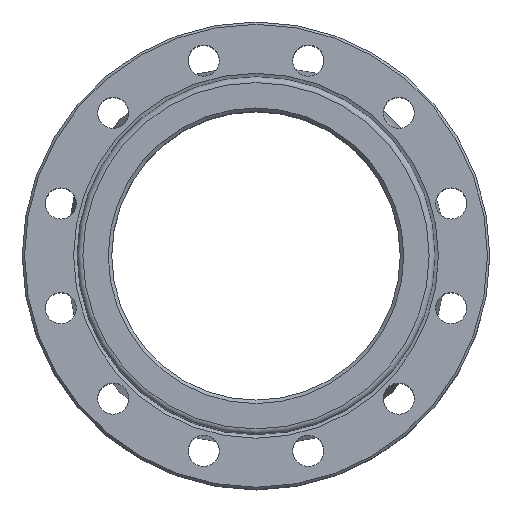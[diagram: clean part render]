
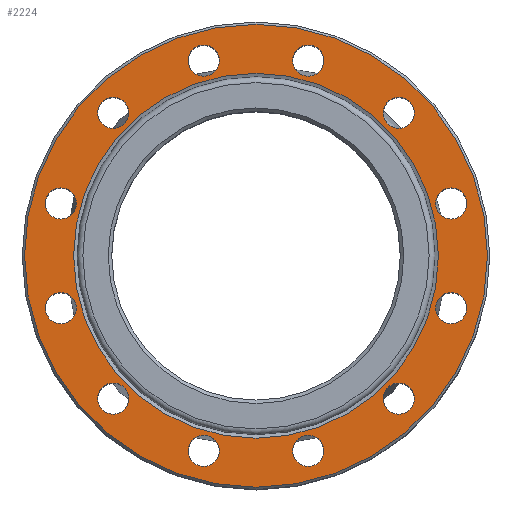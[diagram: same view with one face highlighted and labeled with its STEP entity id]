
A CAD part, top view. The second image highlights one B-rep face of the part: STEP entity #2224.
In plain terms, the highlighted planar face has unit normal (0, 0, 1).
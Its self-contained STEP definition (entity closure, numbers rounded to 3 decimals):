
#180=FACE_BOUND('',#553,.T.);
#181=FACE_BOUND('',#554,.T.);
#182=FACE_BOUND('',#555,.T.);
#183=FACE_BOUND('',#556,.T.);
#184=FACE_BOUND('',#557,.T.);
#185=FACE_BOUND('',#558,.T.);
#186=FACE_BOUND('',#559,.T.);
#187=FACE_BOUND('',#560,.T.);
#188=FACE_BOUND('',#561,.T.);
#189=FACE_BOUND('',#562,.T.);
#190=FACE_BOUND('',#563,.T.);
#191=FACE_BOUND('',#564,.T.);
#192=FACE_BOUND('',#565,.T.);
#201=PLANE('',#2413);
#398=FACE_OUTER_BOUND('',#552,.T.);
#552=EDGE_LOOP('',(#1686));
#553=EDGE_LOOP('',(#1687));
#554=EDGE_LOOP('',(#1688));
#555=EDGE_LOOP('',(#1689));
#556=EDGE_LOOP('',(#1690));
#557=EDGE_LOOP('',(#1691));
#558=EDGE_LOOP('',(#1692));
#559=EDGE_LOOP('',(#1693));
#560=EDGE_LOOP('',(#1694));
#561=EDGE_LOOP('',(#1695));
#562=EDGE_LOOP('',(#1696));
#563=EDGE_LOOP('',(#1697));
#564=EDGE_LOOP('',(#1698));
#565=EDGE_LOOP('',(#1699));
#906=CIRCLE('',#2412,200.5);
#907=CIRCLE('',#2414,13.5);
#908=CIRCLE('',#2415,13.5);
#909=CIRCLE('',#2416,13.5);
#910=CIRCLE('',#2417,13.5);
#911=CIRCLE('',#2418,13.5);
#912=CIRCLE('',#2419,13.5);
#913=CIRCLE('',#2420,13.5);
#914=CIRCLE('',#2421,13.5);
#915=CIRCLE('',#2422,13.5);
#916=CIRCLE('',#2423,13.5);
#917=CIRCLE('',#2424,13.5);
#918=CIRCLE('',#2425,13.5);
#919=CIRCLE('',#2426,158.);
#1088=VERTEX_POINT('',#3406);
#1089=VERTEX_POINT('',#3410);
#1090=VERTEX_POINT('',#3412);
#1091=VERTEX_POINT('',#3414);
#1092=VERTEX_POINT('',#3416);
#1093=VERTEX_POINT('',#3418);
#1094=VERTEX_POINT('',#3420);
#1095=VERTEX_POINT('',#3422);
#1096=VERTEX_POINT('',#3424);
#1097=VERTEX_POINT('',#3426);
#1098=VERTEX_POINT('',#3428);
#1099=VERTEX_POINT('',#3430);
#1100=VERTEX_POINT('',#3432);
#1101=VERTEX_POINT('',#3434);
#1315=EDGE_CURVE('',#1088,#1088,#906,.T.);
#1317=EDGE_CURVE('',#1089,#1089,#907,.T.);
#1318=EDGE_CURVE('',#1090,#1090,#908,.T.);
#1319=EDGE_CURVE('',#1091,#1091,#909,.T.);
#1320=EDGE_CURVE('',#1092,#1092,#910,.T.);
#1321=EDGE_CURVE('',#1093,#1093,#911,.T.);
#1322=EDGE_CURVE('',#1094,#1094,#912,.T.);
#1323=EDGE_CURVE('',#1095,#1095,#913,.T.);
#1324=EDGE_CURVE('',#1096,#1096,#914,.T.);
#1325=EDGE_CURVE('',#1097,#1097,#915,.T.);
#1326=EDGE_CURVE('',#1098,#1098,#916,.T.);
#1327=EDGE_CURVE('',#1099,#1099,#917,.T.);
#1328=EDGE_CURVE('',#1100,#1100,#918,.T.);
#1329=EDGE_CURVE('',#1101,#1101,#919,.T.);
#1686=ORIENTED_EDGE('',*,*,#1315,.F.);
#1687=ORIENTED_EDGE('',*,*,#1317,.T.);
#1688=ORIENTED_EDGE('',*,*,#1318,.T.);
#1689=ORIENTED_EDGE('',*,*,#1319,.T.);
#1690=ORIENTED_EDGE('',*,*,#1320,.T.);
#1691=ORIENTED_EDGE('',*,*,#1321,.T.);
#1692=ORIENTED_EDGE('',*,*,#1322,.T.);
#1693=ORIENTED_EDGE('',*,*,#1323,.T.);
#1694=ORIENTED_EDGE('',*,*,#1324,.T.);
#1695=ORIENTED_EDGE('',*,*,#1325,.T.);
#1696=ORIENTED_EDGE('',*,*,#1326,.T.);
#1697=ORIENTED_EDGE('',*,*,#1327,.T.);
#1698=ORIENTED_EDGE('',*,*,#1328,.T.);
#1699=ORIENTED_EDGE('',*,*,#1329,.T.);
#2224=ADVANCED_FACE('',(#398,#180,#181,#182,#183,#184,#185,#186,#187,#188,
#189,#190,#191,#192),#201,.F.);
#2412=AXIS2_PLACEMENT_3D('',#3407,#2778,#2779);
#2413=AXIS2_PLACEMENT_3D('',#3409,#2781,#2782);
#2414=AXIS2_PLACEMENT_3D('',#3411,#2783,#2784);
#2415=AXIS2_PLACEMENT_3D('',#3413,#2785,#2786);
#2416=AXIS2_PLACEMENT_3D('',#3415,#2787,#2788);
#2417=AXIS2_PLACEMENT_3D('',#3417,#2789,#2790);
#2418=AXIS2_PLACEMENT_3D('',#3419,#2791,#2792);
#2419=AXIS2_PLACEMENT_3D('',#3421,#2793,#2794);
#2420=AXIS2_PLACEMENT_3D('',#3423,#2795,#2796);
#2421=AXIS2_PLACEMENT_3D('',#3425,#2797,#2798);
#2422=AXIS2_PLACEMENT_3D('',#3427,#2799,#2800);
#2423=AXIS2_PLACEMENT_3D('',#3429,#2801,#2802);
#2424=AXIS2_PLACEMENT_3D('',#3431,#2803,#2804);
#2425=AXIS2_PLACEMENT_3D('',#3433,#2805,#2806);
#2426=AXIS2_PLACEMENT_3D('',#3435,#2807,#2808);
#2778=DIRECTION('center_axis',(0.,0.,-1.));
#2779=DIRECTION('ref_axis',(1.,0.,0.));
#2781=DIRECTION('center_axis',(0.,0.,-1.));
#2782=DIRECTION('ref_axis',(-1.,0.,0.));
#2783=DIRECTION('center_axis',(0.,0.,-1.));
#2784=DIRECTION('ref_axis',(1.,0.,0.));
#2785=DIRECTION('center_axis',(0.,0.,-1.));
#2786=DIRECTION('ref_axis',(1.,0.,0.));
#2787=DIRECTION('center_axis',(0.,0.,-1.));
#2788=DIRECTION('ref_axis',(1.,0.,0.));
#2789=DIRECTION('center_axis',(0.,0.,-1.));
#2790=DIRECTION('ref_axis',(1.,0.,0.));
#2791=DIRECTION('center_axis',(0.,0.,-1.));
#2792=DIRECTION('ref_axis',(1.,0.,0.));
#2793=DIRECTION('center_axis',(0.,0.,-1.));
#2794=DIRECTION('ref_axis',(1.,0.,0.));
#2795=DIRECTION('center_axis',(0.,0.,-1.));
#2796=DIRECTION('ref_axis',(1.,0.,0.));
#2797=DIRECTION('center_axis',(0.,0.,-1.));
#2798=DIRECTION('ref_axis',(1.,0.,0.));
#2799=DIRECTION('center_axis',(0.,0.,-1.));
#2800=DIRECTION('ref_axis',(1.,0.,0.));
#2801=DIRECTION('center_axis',(0.,0.,-1.));
#2802=DIRECTION('ref_axis',(1.,0.,0.));
#2803=DIRECTION('center_axis',(0.,0.,-1.));
#2804=DIRECTION('ref_axis',(1.,0.,0.));
#2805=DIRECTION('center_axis',(0.,0.,-1.));
#2806=DIRECTION('ref_axis',(1.,0.,0.));
#2807=DIRECTION('center_axis',(0.,0.,-1.));
#2808=DIRECTION('ref_axis',(0.,1.,0.));
#3406=CARTESIAN_POINT('',(-200.5,0.,111.));
#3407=CARTESIAN_POINT('Origin',(0.,0.,111.));
#3409=CARTESIAN_POINT('Origin',(0.,0.,111.));
#3410=CARTESIAN_POINT('',(-182.537,-45.293,111.));
#3411=CARTESIAN_POINT('Origin',(-169.037,-45.293,111.));
#3412=CARTESIAN_POINT('',(-137.244,-123.744,111.));
#3413=CARTESIAN_POINT('Origin',(-123.744,-123.744,111.));
#3414=CARTESIAN_POINT('',(-58.793,-169.037,111.));
#3415=CARTESIAN_POINT('Origin',(-45.293,-169.037,111.));
#3416=CARTESIAN_POINT('',(31.793,-169.037,111.));
#3417=CARTESIAN_POINT('Origin',(45.293,-169.037,111.));
#3418=CARTESIAN_POINT('',(110.244,-123.744,111.));
#3419=CARTESIAN_POINT('Origin',(123.744,-123.744,111.));
#3420=CARTESIAN_POINT('',(155.537,-45.293,111.));
#3421=CARTESIAN_POINT('Origin',(169.037,-45.293,111.));
#3422=CARTESIAN_POINT('',(155.537,45.293,111.));
#3423=CARTESIAN_POINT('Origin',(169.037,45.293,111.));
#3424=CARTESIAN_POINT('',(110.244,123.744,111.));
#3425=CARTESIAN_POINT('Origin',(123.744,123.744,111.));
#3426=CARTESIAN_POINT('',(31.793,169.037,111.));
#3427=CARTESIAN_POINT('Origin',(45.293,169.037,111.));
#3428=CARTESIAN_POINT('',(-58.793,169.037,111.));
#3429=CARTESIAN_POINT('Origin',(-45.293,169.037,111.));
#3430=CARTESIAN_POINT('',(-137.244,123.744,111.));
#3431=CARTESIAN_POINT('Origin',(-123.744,123.744,111.));
#3432=CARTESIAN_POINT('',(-182.537,45.293,111.));
#3433=CARTESIAN_POINT('Origin',(-169.037,45.293,111.));
#3434=CARTESIAN_POINT('',(0.,-158.,111.));
#3435=CARTESIAN_POINT('Origin',(0.,0.,111.));
